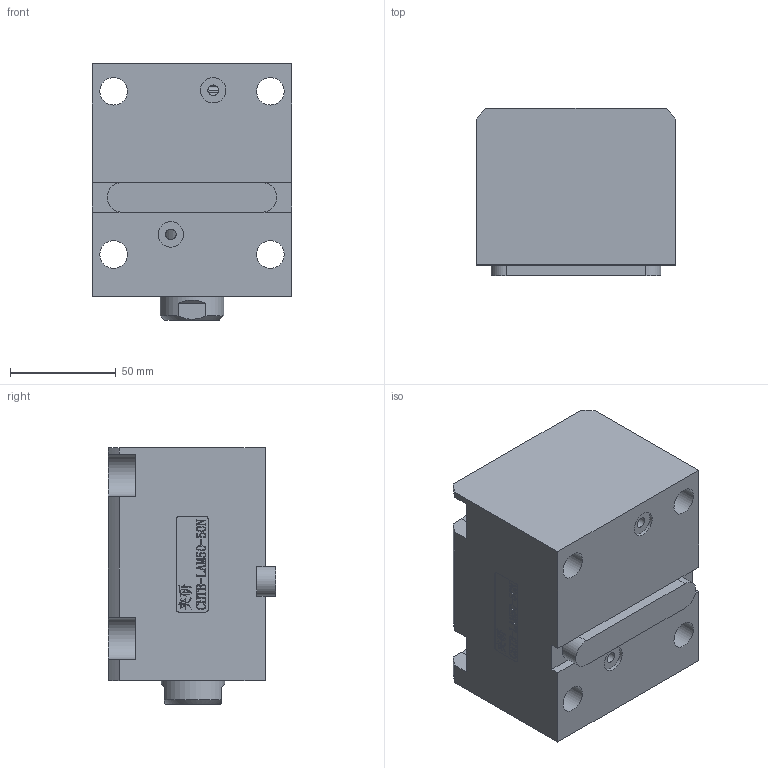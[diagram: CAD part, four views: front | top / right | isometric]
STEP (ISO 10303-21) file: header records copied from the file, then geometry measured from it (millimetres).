
FILE_DESCRIPTION(/* description */ (''),/* implementation_level */ '2;1');
FILE_NAME(/* name */ 'CHTB-LAM50-50N.stp',/* time_stamp */ '2022-04-29T18:02:42+08:00',/* author */ (''),/* organization */ (''),/* preprocessor_version */ 'ST-DEVELOPER v16.7',/* originating_system */ 'SIEMENS PLM Software NX 12.0',/* authorisation */ '');
FILE_SCHEMA (('AUTOMOTIVE_DESIGN { 1 0 10303 214 3 1 1 1 }'));
Length unit declared in the file: millimetre
Products named in the file (1): CHTB-LAM50-50N
Bounding box: 94 x 79 x 121 mm (x, y, z)
Volume: 647947.7 mm3; surface area: 112182.6 mm2
Topology: 3 solids, 3 shells, 453 faces, 1254 edges, 846 vertices
Faces by surface type: plane 305, extrusion 81, cylinder 41, torus 11, bspline 8, cone 7
Full cylindrical faces by diameter (mm): 4 x2, 5 x2, 12 x2, 13 x4, 19 x1, 30 x2, 39 x1, 44 x2, 46 x1, 50 x5, 59 x1
Entity records: 21475 total; most frequent: CARTESIAN_POINT 8109, ORIENTED_EDGE 2398, DIRECTION 1863, EDGE_CURVE 1199, VECTOR 947, LINE 866, VERTEX_POINT 838, EDGE_LOOP 550
